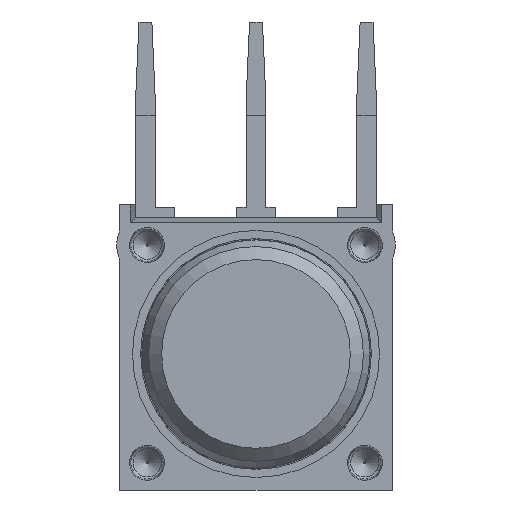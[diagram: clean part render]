
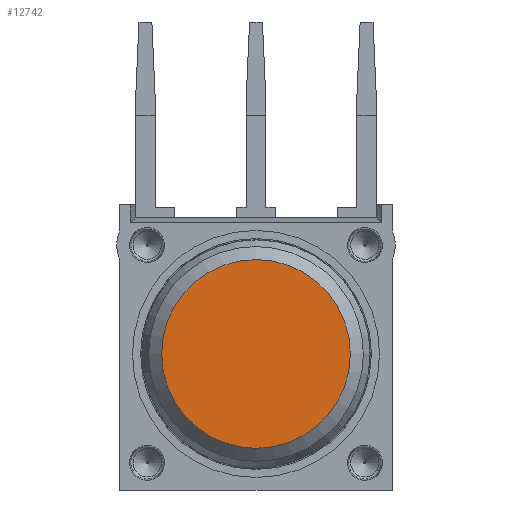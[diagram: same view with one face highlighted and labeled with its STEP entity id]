
A CAD part, left-side view. The second image highlights one B-rep face of the part: STEP entity #12742.
In plain terms, the highlighted planar face has unit normal (-1, 0, 0) as drawn and (0, 0, 1) by its records, which use the part's own axes.
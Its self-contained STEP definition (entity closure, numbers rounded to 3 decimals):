
#829=CIRCLE('',#14695,4.334);
#1246=PLANE('',#14694);
#6445=ORIENTED_EDGE('',*,*,#8432,.T.);
#8432=EDGE_CURVE('',#9764,#9764,#829,.F.);
#9764=VERTEX_POINT('',#22652);
#10882=EDGE_LOOP('',(#6445));
#11787=FACE_BOUND('',#10882,.T.);
#12742=ADVANCED_FACE('',(#11787),#1246,.T.);
#14694=AXIS2_PLACEMENT_3D('',#22650,#18074,#18075);
#14695=AXIS2_PLACEMENT_3D('',#22651,#18076,#18077);
#18074=DIRECTION('',(0.,0.,1.));
#18075=DIRECTION('',(1.,0.,0.));
#18076=DIRECTION('',(0.,0.,-1.));
#18077=DIRECTION('',(-1.,0.,0.));
#22650=CARTESIAN_POINT('',(-4.386,-4.386,1.4));
#22651=CARTESIAN_POINT('',(0.,0.,1.4));
#22652=CARTESIAN_POINT('',(-4.334,0.,1.4));
